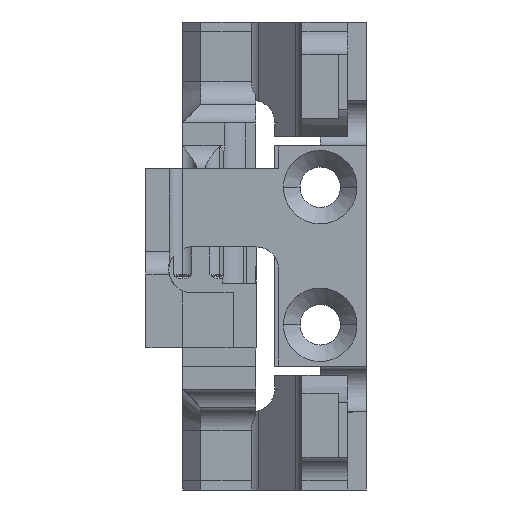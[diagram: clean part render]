
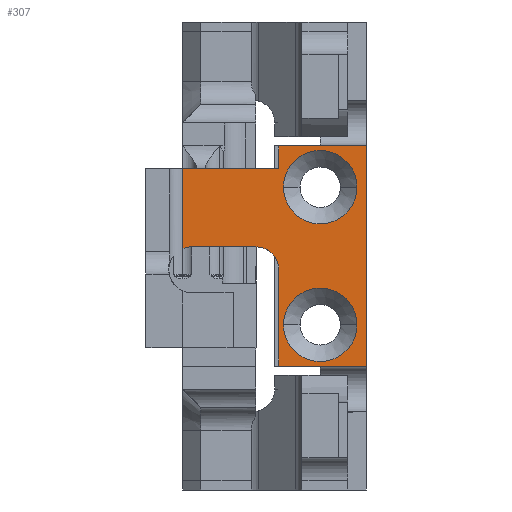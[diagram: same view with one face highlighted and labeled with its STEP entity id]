
A CAD part, front view. The second image highlights one B-rep face of the part: STEP entity #307.
In plain terms, the highlighted planar face has unit normal (0, -1, 0).
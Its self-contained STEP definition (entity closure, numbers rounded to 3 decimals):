
#307=ADVANCED_FACE('',(#1015,#1016,#661),#3331,.T.);
#661=FACE_OUTER_BOUND('',#1064,.F.);
#1015=FACE_BOUND('',#1062,.F.);
#1016=FACE_BOUND('',#1063,.F.);
#1062=EDGE_LOOP('',(#1515,#1516));
#1063=EDGE_LOOP('',(#1517,#1518));
#1064=EDGE_LOOP('',(#1519,#1520,#1521,#1522,#1523,#1524,#1525,#1526,#1527,
#1528,#1529));
#1515=ORIENTED_EDGE('',*,*,#4869,.T.);
#1516=ORIENTED_EDGE('',*,*,#4868,.T.);
#1517=ORIENTED_EDGE('',*,*,#4871,.T.);
#1518=ORIENTED_EDGE('',*,*,#4870,.T.);
#1519=ORIENTED_EDGE('',*,*,#5056,.F.);
#1520=ORIENTED_EDGE('',*,*,#4930,.T.);
#1521=ORIENTED_EDGE('',*,*,#4849,.T.);
#1522=ORIENTED_EDGE('',*,*,#4867,.T.);
#1523=ORIENTED_EDGE('',*,*,#4866,.T.);
#1524=ORIENTED_EDGE('',*,*,#4865,.T.);
#1525=ORIENTED_EDGE('',*,*,#4864,.T.);
#1526=ORIENTED_EDGE('',*,*,#4831,.T.);
#1527=ORIENTED_EDGE('',*,*,#4852,.T.);
#1528=ORIENTED_EDGE('',*,*,#4850,.T.);
#1529=ORIENTED_EDGE('',*,*,#4916,.T.);
#3331=PLANE('',#6766);
#3629=LINE('',#10196,#4173);
#3642=LINE('',#10224,#4186);
#3643=LINE('',#10225,#4187);
#3645=LINE('',#10227,#4189);
#3653=LINE('',#10252,#4197);
#3654=LINE('',#10254,#4198);
#3681=LINE('',#10315,#4225);
#3689=LINE('',#10329,#4233);
#3743=LINE('',#10575,#4287);
#4173=VECTOR('',#7426,4.354);
#4186=VECTOR('',#7445,1.);
#4187=VECTOR('',#7446,1.25);
#4189=VECTOR('',#7448,5.25);
#4197=VECTOR('',#7462,3.5);
#4198=VECTOR('',#7465,4.25);
#4225=VECTOR('',#7532,4.75);
#4233=VECTOR('',#7552,4.75);
#4287=VECTOR('',#7726,12.);
#4831=EDGE_CURVE('',#6206,#6205,#3629,.T.);
#4849=EDGE_CURVE('',#6193,#6188,#3642,.T.);
#4850=EDGE_CURVE('',#6187,#6194,#3643,.T.);
#4852=EDGE_CURVE('',#6205,#6187,#3645,.T.);
#4864=EDGE_CURVE('',#6176,#6206,#5632,.T.);
#4865=EDGE_CURVE('',#6175,#6176,#3653,.T.);
#4866=EDGE_CURVE('',#6174,#6175,#5633,.T.);
#4867=EDGE_CURVE('',#6188,#6174,#3654,.T.);
#4868=EDGE_CURVE('',#6173,#6172,#5634,.T.);
#4869=EDGE_CURVE('',#6172,#6173,#5635,.T.);
#4870=EDGE_CURVE('',#6171,#6170,#5636,.T.);
#4871=EDGE_CURVE('',#6170,#6171,#5637,.T.);
#4916=EDGE_CURVE('',#6194,#6132,#3681,.T.);
#4930=EDGE_CURVE('',#6118,#6193,#3689,.T.);
#5056=EDGE_CURVE('',#6118,#6132,#3743,.T.);
#5632=CIRCLE('',#6565,1.25);
#5633=CIRCLE('',#6566,1.25);
#5634=CIRCLE('',#6567,2.);
#5635=CIRCLE('',#6568,2.);
#5636=CIRCLE('',#6569,2.);
#5637=CIRCLE('',#6570,2.);
#6118=VERTEX_POINT('',#9351);
#6132=VERTEX_POINT('',#9365);
#6170=VERTEX_POINT('',#9403);
#6171=VERTEX_POINT('',#9404);
#6172=VERTEX_POINT('',#9405);
#6173=VERTEX_POINT('',#9406);
#6174=VERTEX_POINT('',#9407);
#6175=VERTEX_POINT('',#9408);
#6176=VERTEX_POINT('',#9409);
#6187=VERTEX_POINT('',#9420);
#6188=VERTEX_POINT('',#9421);
#6193=VERTEX_POINT('',#9426);
#6194=VERTEX_POINT('',#9427);
#6205=VERTEX_POINT('',#9438);
#6206=VERTEX_POINT('',#9439);
#6565=AXIS2_PLACEMENT_3D('',#10251,#7460,#7461);
#6566=AXIS2_PLACEMENT_3D('',#10253,#7463,#7464);
#6567=AXIS2_PLACEMENT_3D('',#10255,#7466,#7467);
#6568=AXIS2_PLACEMENT_3D('',#10256,#7468,#7469);
#6569=AXIS2_PLACEMENT_3D('',#10257,#7470,#7471);
#6570=AXIS2_PLACEMENT_3D('',#10258,#7472,#7473);
#6766=AXIS2_PLACEMENT_3D('',#10969,#8233,#8234);
#7426=DIRECTION('',(0.,0.,1.));
#7445=DIRECTION('',(0.,0.,1.));
#7446=DIRECTION('',(0.,0.,1.));
#7448=DIRECTION('',(1.,0.,0.));
#7460=DIRECTION('',(0.,-1.,0.));
#7461=DIRECTION('',(0.,0.,1.));
#7462=DIRECTION('',(-1.,0.,0.));
#7463=DIRECTION('',(0.,-1.,0.));
#7464=DIRECTION('',(1.,0.,0.));
#7465=DIRECTION('',(0.,0.,1.));
#7466=DIRECTION('',(0.,-1.,0.));
#7467=DIRECTION('',(1.,0.,0.));
#7468=DIRECTION('',(0.,-1.,0.));
#7469=DIRECTION('',(-1.,0.,0.));
#7470=DIRECTION('',(0.,-1.,0.));
#7471=DIRECTION('',(1.,0.,0.));
#7472=DIRECTION('',(0.,-1.,0.));
#7473=DIRECTION('',(-1.,0.,0.));
#7532=DIRECTION('',(1.,0.,0.));
#7552=DIRECTION('',(-1.,0.,0.));
#7726=DIRECTION('',(0.,0.,1.));
#8233=DIRECTION('',(0.,-1.,0.));
#8234=DIRECTION('',(0.,0.,1.));
#9351=CARTESIAN_POINT('',(-141.,76.5,228.5));
#9365=CARTESIAN_POINT('',(-141.,76.5,240.5));
#9403=CARTESIAN_POINT('',(-145.5,76.5,238.25));
#9404=CARTESIAN_POINT('',(-141.5,76.5,238.25));
#9405=CARTESIAN_POINT('',(-145.5,76.5,230.75));
#9406=CARTESIAN_POINT('',(-141.5,76.5,230.75));
#9407=CARTESIAN_POINT('',(-145.75,76.5,233.75));
#9408=CARTESIAN_POINT('',(-147.,76.5,235.));
#9409=CARTESIAN_POINT('',(-150.5,76.5,235.));
#9420=CARTESIAN_POINT('',(-145.75,76.5,239.25));
#9421=CARTESIAN_POINT('',(-145.75,76.5,229.5));
#9426=CARTESIAN_POINT('',(-145.75,76.5,228.5));
#9427=CARTESIAN_POINT('',(-145.75,76.5,240.5));
#9438=CARTESIAN_POINT('',(-151.,76.5,239.25));
#9439=CARTESIAN_POINT('',(-151.,76.5,234.896));
#10196=CARTESIAN_POINT('',(-151.,76.5,234.896));
#10224=CARTESIAN_POINT('',(-145.75,76.5,228.5));
#10225=CARTESIAN_POINT('',(-145.75,76.5,239.25));
#10227=CARTESIAN_POINT('',(-151.,76.5,239.25));
#10251=CARTESIAN_POINT('',(-150.5,76.5,233.75));
#10252=CARTESIAN_POINT('',(-147.,76.5,235.));
#10253=CARTESIAN_POINT('',(-147.,76.5,233.75));
#10254=CARTESIAN_POINT('',(-145.75,76.5,229.5));
#10255=CARTESIAN_POINT('',(-143.5,76.5,230.75));
#10256=CARTESIAN_POINT('',(-143.5,76.5,230.75));
#10257=CARTESIAN_POINT('',(-143.5,76.5,238.25));
#10258=CARTESIAN_POINT('',(-143.5,76.5,238.25));
#10315=CARTESIAN_POINT('',(-145.75,76.5,240.5));
#10329=CARTESIAN_POINT('',(-141.,76.5,228.5));
#10575=CARTESIAN_POINT('',(-141.,76.5,228.5));
#10969=CARTESIAN_POINT('',(-140.745,76.5,221.495));
